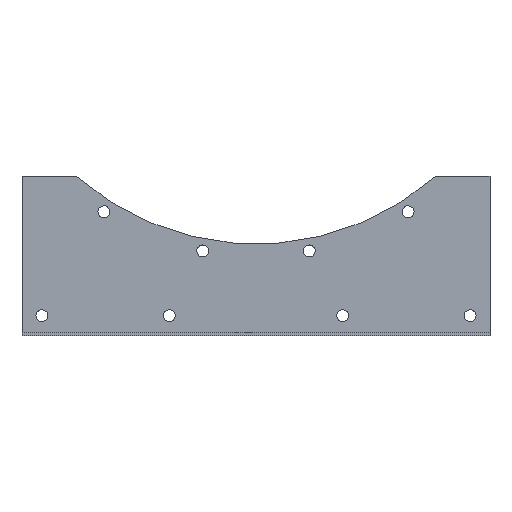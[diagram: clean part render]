
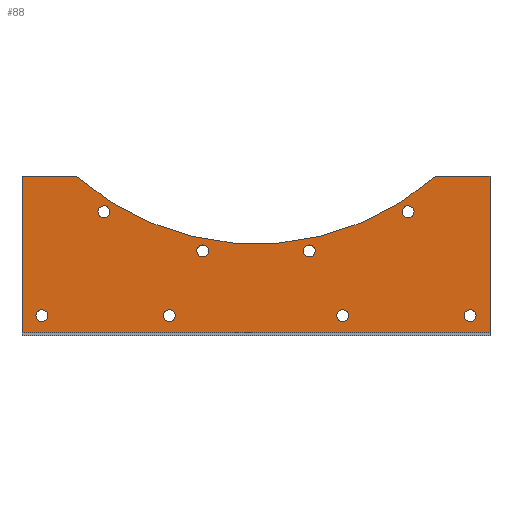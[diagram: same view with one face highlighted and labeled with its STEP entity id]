
A CAD part, top view. The second image highlights one B-rep face of the part: STEP entity #88.
In plain terms, the highlighted planar face has unit normal (0, 0, 1).
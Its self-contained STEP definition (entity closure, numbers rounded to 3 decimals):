
#88=ADVANCED_FACE('',(#184,#185,#186,#187,#188,#189,#190,#191,#192),#193,.T.);
#184=FACE_BOUND('',#285,.T.);
#185=FACE_BOUND('',#286,.T.);
#186=FACE_BOUND('',#287,.T.);
#187=FACE_BOUND('',#288,.T.);
#188=FACE_BOUND('',#289,.T.);
#189=FACE_BOUND('',#290,.T.);
#190=FACE_BOUND('',#291,.T.);
#191=FACE_BOUND('',#292,.T.);
#192=FACE_OUTER_BOUND('',#293,.T.);
#193=PLANE('',#294);
#285=EDGE_LOOP('',(#485,#486));
#286=EDGE_LOOP('',(#487,#488));
#287=EDGE_LOOP('',(#489,#490));
#288=EDGE_LOOP('',(#491,#492));
#289=EDGE_LOOP('',(#493,#494));
#290=EDGE_LOOP('',(#495,#496));
#291=EDGE_LOOP('',(#497,#498));
#292=EDGE_LOOP('',(#499,#500));
#293=EDGE_LOOP('',(#501,#502,#503,#504,#505,#506));
#294=AXIS2_PLACEMENT_3D('',#507,#508,#509);
#485=ORIENTED_EDGE('',*,*,#599,.T.);
#486=ORIENTED_EDGE('',*,*,#604,.T.);
#487=ORIENTED_EDGE('',*,*,#594,.T.);
#488=ORIENTED_EDGE('',*,*,#607,.T.);
#489=ORIENTED_EDGE('',*,*,#589,.T.);
#490=ORIENTED_EDGE('',*,*,#610,.T.);
#491=ORIENTED_EDGE('',*,*,#584,.T.);
#492=ORIENTED_EDGE('',*,*,#613,.T.);
#493=ORIENTED_EDGE('',*,*,#579,.T.);
#494=ORIENTED_EDGE('',*,*,#616,.T.);
#495=ORIENTED_EDGE('',*,*,#574,.T.);
#496=ORIENTED_EDGE('',*,*,#619,.T.);
#497=ORIENTED_EDGE('',*,*,#569,.T.);
#498=ORIENTED_EDGE('',*,*,#622,.T.);
#499=ORIENTED_EDGE('',*,*,#564,.T.);
#500=ORIENTED_EDGE('',*,*,#625,.T.);
#501=ORIENTED_EDGE('',*,*,#627,.T.);
#502=ORIENTED_EDGE('',*,*,#641,.F.);
#503=ORIENTED_EDGE('',*,*,#642,.F.);
#504=ORIENTED_EDGE('',*,*,#643,.F.);
#505=ORIENTED_EDGE('',*,*,#644,.F.);
#506=ORIENTED_EDGE('',*,*,#638,.F.);
#507=CARTESIAN_POINT('',(0.0,3.0,-17.0));
#508=DIRECTION('',(0.0,0.0,1.0));
#509=DIRECTION('',(1.0,0.0,0.0));
#564=EDGE_CURVE('',#664,#661,#665,.T.);
#569=EDGE_CURVE('',#673,#670,#674,.T.);
#574=EDGE_CURVE('',#682,#679,#683,.T.);
#579=EDGE_CURVE('',#691,#688,#692,.T.);
#584=EDGE_CURVE('',#700,#697,#701,.T.);
#589=EDGE_CURVE('',#709,#706,#710,.T.);
#594=EDGE_CURVE('',#718,#715,#719,.T.);
#599=EDGE_CURVE('',#727,#724,#728,.T.);
#604=EDGE_CURVE('',#724,#727,#734,.T.);
#607=EDGE_CURVE('',#715,#718,#737,.T.);
#610=EDGE_CURVE('',#706,#709,#740,.T.);
#613=EDGE_CURVE('',#697,#700,#743,.T.);
#616=EDGE_CURVE('',#688,#691,#746,.T.);
#619=EDGE_CURVE('',#679,#682,#749,.T.);
#622=EDGE_CURVE('',#670,#673,#752,.T.);
#625=EDGE_CURVE('',#661,#664,#755,.T.);
#627=EDGE_CURVE('',#757,#758,#759,.T.);
#638=EDGE_CURVE('',#757,#776,#777,.T.);
#641=EDGE_CURVE('',#780,#758,#781,.T.);
#642=EDGE_CURVE('',#782,#780,#783,.T.);
#643=EDGE_CURVE('',#784,#782,#785,.T.);
#644=EDGE_CURVE('',#776,#784,#786,.T.);
#661=VERTEX_POINT('',#807);
#664=VERTEX_POINT('',#811);
#665=CIRCLE('',#812,6.0);
#670=VERTEX_POINT('',#818);
#673=VERTEX_POINT('',#822);
#674=CIRCLE('',#823,6.0);
#679=VERTEX_POINT('',#829);
#682=VERTEX_POINT('',#833);
#683=CIRCLE('',#834,6.0);
#688=VERTEX_POINT('',#840);
#691=VERTEX_POINT('',#844);
#692=CIRCLE('',#845,6.0);
#697=VERTEX_POINT('',#851);
#700=VERTEX_POINT('',#855);
#701=CIRCLE('',#856,6.0);
#706=VERTEX_POINT('',#862);
#709=VERTEX_POINT('',#866);
#710=CIRCLE('',#867,6.0);
#715=VERTEX_POINT('',#873);
#718=VERTEX_POINT('',#877);
#719=CIRCLE('',#878,6.0);
#724=VERTEX_POINT('',#884);
#727=VERTEX_POINT('',#888);
#728=CIRCLE('',#889,6.0);
#734=CIRCLE('',#896,6.0);
#737=CIRCLE('',#899,6.0);
#740=CIRCLE('',#902,6.0);
#743=CIRCLE('',#905,6.0);
#746=CIRCLE('',#908,6.0);
#749=CIRCLE('',#911,6.0);
#752=CIRCLE('',#914,6.0);
#755=CIRCLE('',#917,6.0);
#757=VERTEX_POINT('',#919);
#758=VERTEX_POINT('',#920);
#759=CIRCLE('',#921,273.0);
#776=VERTEX_POINT('',#945);
#777=LINE('',#946,#947);
#780=VERTEX_POINT('',#951);
#781=LINE('',#952,#953);
#782=VERTEX_POINT('',#954);
#783=LINE('',#955,#956);
#784=VERTEX_POINT('',#957);
#785=LINE('',#958,#959);
#786=LINE('',#960,#961);
#807=CARTESIAN_POINT('',(-209.0,-60.0,-17.0));
#811=CARTESIAN_POINT('',(-221.0,-60.0,-17.0));
#812=AXIS2_PLACEMENT_3D('',#991,#992,#993);
#818=CARTESIAN_POINT('',(221.0,-60.0,-17.0));
#822=CARTESIAN_POINT('',(209.0,-60.0,-17.0));
#823=AXIS2_PLACEMENT_3D('',#999,#1000,#1001);
#829=CARTESIAN_POINT('',(-81.0,-60.0,-17.0));
#833=CARTESIAN_POINT('',(-93.0,-60.0,-17.0));
#834=AXIS2_PLACEMENT_3D('',#1007,#1008,#1009);
#840=CARTESIAN_POINT('',(93.0,-60.0,-17.0));
#844=CARTESIAN_POINT('',(81.0,-60.0,-17.0));
#845=AXIS2_PLACEMENT_3D('',#1015,#1016,#1017);
#851=CARTESIAN_POINT('',(59.297,6.172,-17.0));
#855=CARTESIAN_POINT('',(47.51,3.924,-17.0));
#856=AXIS2_PLACEMENT_3D('',#1023,#1024,#1025);
#862=CARTESIAN_POINT('',(-47.51,3.924,-17.0));
#866=CARTESIAN_POINT('',(-59.297,6.172,-17.0));
#867=AXIS2_PLACEMENT_3D('',#1031,#1032,#1033);
#873=CARTESIAN_POINT('',(-147.645,41.152,-17.0));
#877=CARTESIAN_POINT('',(-157.777,47.582,-17.0));
#878=AXIS2_PLACEMENT_3D('',#1039,#1040,#1041);
#884=CARTESIAN_POINT('',(157.777,47.582,-17.0));
#888=CARTESIAN_POINT('',(147.645,41.152,-17.0));
#889=AXIS2_PLACEMENT_3D('',#1047,#1048,#1049);
#896=AXIS2_PLACEMENT_3D('',#1057,#1058,#1059);
#899=AXIS2_PLACEMENT_3D('',#1063,#1064,#1065);
#902=AXIS2_PLACEMENT_3D('',#1069,#1070,#1071);
#905=AXIS2_PLACEMENT_3D('',#1075,#1076,#1077);
#908=AXIS2_PLACEMENT_3D('',#1081,#1082,#1083);
#911=AXIS2_PLACEMENT_3D('',#1087,#1088,#1089);
#914=AXIS2_PLACEMENT_3D('',#1093,#1094,#1095);
#917=AXIS2_PLACEMENT_3D('',#1099,#1100,#1101);
#919=CARTESIAN_POINT('',(180.289,80.0,-17.0));
#920=CARTESIAN_POINT('',(-180.289,80.0,-17.0));
#921=AXIS2_PLACEMENT_3D('',#1102,#1103,#1104);
#945=CARTESIAN_POINT('',(235.0,80.0,-17.0));
#946=CARTESIAN_POINT('',(0.0,80.0,-17.0));
#947=VECTOR('',#1115,1.0);
#951=CARTESIAN_POINT('',(-235.0,80.0,-17.0));
#952=CARTESIAN_POINT('',(0.0,80.0,-17.0));
#953=VECTOR('',#1117,1.0);
#954=CARTESIAN_POINT('',(-235.0,-77.0,-17.0));
#955=CARTESIAN_POINT('',(-235.0,1.5,-17.0));
#956=VECTOR('',#1118,1.0);
#957=CARTESIAN_POINT('',(235.0,-77.0,-17.0));
#958=CARTESIAN_POINT('',(0.0,-77.0,-17.0));
#959=VECTOR('',#1119,1.0);
#960=CARTESIAN_POINT('',(235.0,1.5,-17.0));
#961=VECTOR('',#1120,1.0);
#991=CARTESIAN_POINT('',(-215.0,-60.0,-17.0));
#992=DIRECTION('',(0.0,0.0,-1.0));
#993=DIRECTION('',(1.0,0.0,0.0));
#999=CARTESIAN_POINT('',(215.0,-60.0,-17.0));
#1000=DIRECTION('',(0.0,0.0,-1.0));
#1001=DIRECTION('',(1.0,0.0,0.0));
#1007=CARTESIAN_POINT('',(-87.0,-60.0,-17.0));
#1008=DIRECTION('',(0.0,0.0,-1.0));
#1009=DIRECTION('',(1.0,0.0,0.0));
#1015=CARTESIAN_POINT('',(87.0,-60.0,-17.0));
#1016=DIRECTION('',(0.0,0.0,-1.0));
#1017=DIRECTION('',(1.0,0.0,0.0));
#1023=CARTESIAN_POINT('',(53.404,5.048,-17.0));
#1024=DIRECTION('',(0.0,0.0,-1.0));
#1025=DIRECTION('',(0.982,0.187,0.0));
#1031=CARTESIAN_POINT('',(-53.404,5.048,-17.0));
#1032=DIRECTION('',(0.0,-0.0,-1.0));
#1033=DIRECTION('',(0.982,-0.187,0.0));
#1039=CARTESIAN_POINT('',(-152.711,44.367,-17.0));
#1040=DIRECTION('',(0.0,-0.0,-1.0));
#1041=DIRECTION('',(0.844,-0.536,0.0));
#1047=CARTESIAN_POINT('',(152.711,44.367,-17.0));
#1048=DIRECTION('',(0.0,0.0,-1.0));
#1049=DIRECTION('',(0.844,0.536,0.0));
#1057=CARTESIAN_POINT('',(152.711,44.367,-17.0));
#1058=DIRECTION('',(0.0,0.0,-1.0));
#1059=DIRECTION('',(0.844,0.536,0.0));
#1063=CARTESIAN_POINT('',(-152.711,44.367,-17.0));
#1064=DIRECTION('',(0.0,-0.0,-1.0));
#1065=DIRECTION('',(0.844,-0.536,0.0));
#1069=CARTESIAN_POINT('',(-53.404,5.048,-17.0));
#1070=DIRECTION('',(0.0,-0.0,-1.0));
#1071=DIRECTION('',(0.982,-0.187,0.0));
#1075=CARTESIAN_POINT('',(53.404,5.048,-17.0));
#1076=DIRECTION('',(0.0,0.0,-1.0));
#1077=DIRECTION('',(0.982,0.187,0.0));
#1081=CARTESIAN_POINT('',(87.0,-60.0,-17.0));
#1082=DIRECTION('',(0.0,0.0,-1.0));
#1083=DIRECTION('',(1.0,0.0,0.0));
#1087=CARTESIAN_POINT('',(-87.0,-60.0,-17.0));
#1088=DIRECTION('',(0.0,0.0,-1.0));
#1089=DIRECTION('',(1.0,0.0,0.0));
#1093=CARTESIAN_POINT('',(215.0,-60.0,-17.0));
#1094=DIRECTION('',(0.0,0.0,-1.0));
#1095=DIRECTION('',(1.0,0.0,0.0));
#1099=CARTESIAN_POINT('',(-215.0,-60.0,-17.0));
#1100=DIRECTION('',(0.0,0.0,-1.0));
#1101=DIRECTION('',(1.0,0.0,0.0));
#1102=CARTESIAN_POINT('',(0.0,285.0,-17.0));
#1103=DIRECTION('',(0.0,0.0,-1.0));
#1104=DIRECTION('',(1.0,0.0,0.0));
#1115=DIRECTION('',(1.0,0.0,-0.0));
#1117=DIRECTION('',(1.0,0.0,-0.0));
#1118=DIRECTION('',(0.0,1.0,0.0));
#1119=DIRECTION('',(-1.0,0.0,0.0));
#1120=DIRECTION('',(0.0,-1.0,0.0));
